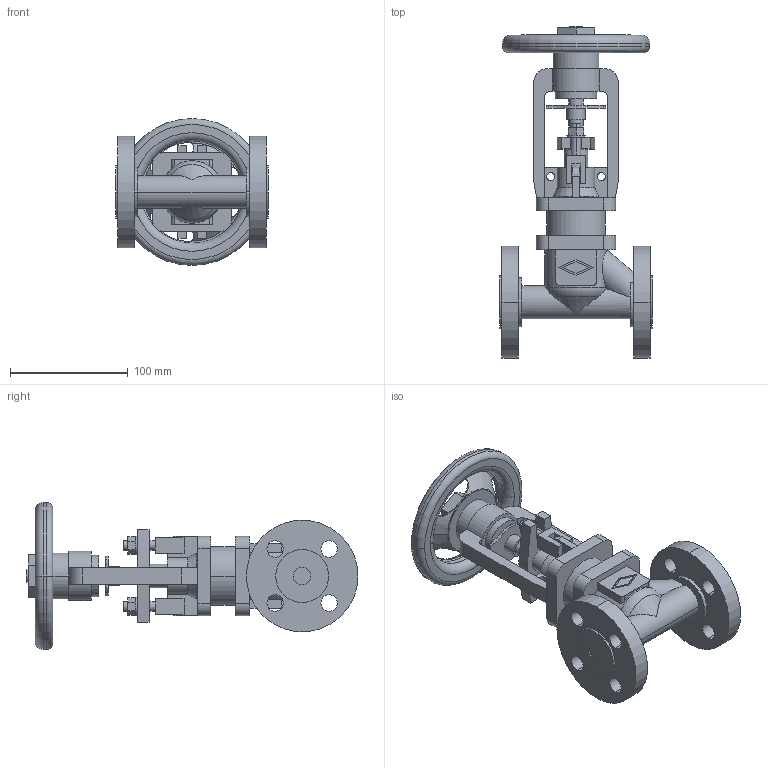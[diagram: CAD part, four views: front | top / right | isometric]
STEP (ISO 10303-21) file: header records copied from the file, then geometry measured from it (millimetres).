
FILE_DESCRIPTION(('OneSpaceDesigner STEP Export'),'2;1');
FILE_NAME('c000004278.stp','2010-05-05T10:03:57',(''),(''),'OneSpace Designer STEP processor for AP214 (Solid Model)','OneSpace Modeling 15.50B 03-Nov-2007 (C) CoCreate Software GmbH','');
FILE_SCHEMA(('AUTOMOTIVE_DESIGN { 1 0 10303 214 1 1 1 1 }'));
Length unit declared in the file: millimetre
Products named in the file (1): 1
Bounding box: 130 x 282.5 x 125 mm (x, y, z)
Volume: 757712.2 mm3; surface area: 142784.9 mm2
Topology: 1 solids, 1 shells, 292 faces, 782 edges, 516 vertices
Faces by surface type: plane 145, cylinder 119, torus 16, cone 12
Entity records: 11579 total; most frequent: CARTESIAN_POINT 2197, ORIENTED_EDGE 1564, DIRECTION 1327, EDGE_CURVE 782, VERTEX_POINT 516, AXIS2_PLACEMENT_3D 448, VECTOR 431, LINE 431
